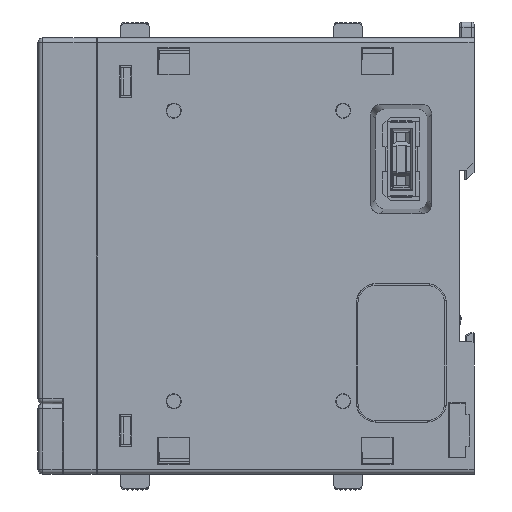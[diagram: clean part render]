
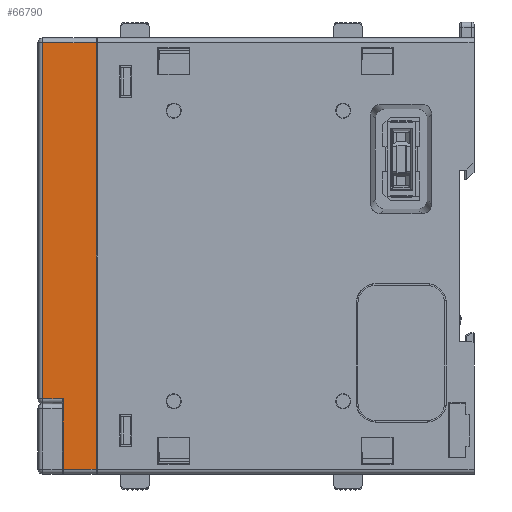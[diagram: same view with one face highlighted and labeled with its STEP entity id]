
A CAD part, left-side view. The second image highlights one B-rep face of the part: STEP entity #66790.
In plain terms, the highlighted planar face has unit normal (-1, 0, 0).
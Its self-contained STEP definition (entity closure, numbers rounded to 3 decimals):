
#2193=DIRECTION('',(0.,-1.,0.));
#2194=VECTOR('',#2193,4.2);
#2195=CARTESIAN_POINT('',(-13.3,89.,-29.5));
#2196=LINE('',#2195,#2194);
#2375=DIRECTION('',(0.,0.,1.));
#2376=VECTOR('',#2375,14.5);
#2377=CARTESIAN_POINT('',(-13.3,84.8,-44.));
#2378=LINE('',#2377,#2376);
#2382=DIRECTION('',(0.,0.,1.));
#2383=VECTOR('',#2382,73.5);
#2384=CARTESIAN_POINT('',(-13.3,89.,-29.5));
#2385=LINE('',#2384,#2383);
#2389=DIRECTION('',(0.,-1.,0.));
#2390=VECTOR('',#2389,11.);
#2391=CARTESIAN_POINT('',(-13.3,89.,44.));
#2392=LINE('',#2391,#2390);
#2396=DIRECTION('',(0.,-1.,0.));
#2397=VECTOR('',#2396,6.8);
#2398=CARTESIAN_POINT('',(-13.3,84.8,-44.));
#2399=LINE('',#2398,#2397);
#2411=DIRECTION('',(0.,0.,1.));
#2412=VECTOR('',#2411,88.);
#2413=CARTESIAN_POINT('',(-13.3,78.,-44.));
#2414=LINE('',#2413,#2412);
#59220=CARTESIAN_POINT('',(-13.3,78.,-44.));
#59222=VERTEX_POINT('',#59220);
#59229=CARTESIAN_POINT('',(-13.3,78.,44.));
#59231=VERTEX_POINT('',#59229);
#59236=CARTESIAN_POINT('',(-13.3,89.,44.));
#59238=VERTEX_POINT('',#59236);
#59312=CARTESIAN_POINT('',(-13.3,89.,-29.5));
#59314=VERTEX_POINT('',#59312);
#59428=CARTESIAN_POINT('',(-13.3,84.8,-44.));
#59429=CARTESIAN_POINT('',(-13.3,84.8,-29.5));
#59430=VERTEX_POINT('',#59428);
#59431=VERTEX_POINT('',#59429);
#66775=CARTESIAN_POINT('',(-13.3,78.,-45.));
#66776=DIRECTION('',(-1.,0.,0.));
#66777=DIRECTION('',(0.,0.,1.));
#66778=AXIS2_PLACEMENT_3D('',#66775,#66776,#66777);
#66779=PLANE('',#66778);
#66780=ORIENTED_EDGE('',*,*,#66768,.T.);
#66781=ORIENTED_EDGE('',*,*,#66578,.F.);
#66782=ORIENTED_EDGE('',*,*,#66607,.T.);
#66783=ORIENTED_EDGE('',*,*,#66635,.T.);
#66785=ORIENTED_EDGE('',*,*,#66784,.F.);
#66787=ORIENTED_EDGE('',*,*,#66786,.F.);
#66788=EDGE_LOOP('',(#66780,#66781,#66782,#66783,#66785,#66787));
#66789=FACE_OUTER_BOUND('',#66788,.F.);
#66790=ADVANCED_FACE('',(#66789),#66779,.T.);
#66578=EDGE_CURVE('',#59314,#59431,#2196,.T.);
#66607=EDGE_CURVE('',#59314,#59238,#2385,.T.);
#66635=EDGE_CURVE('',#59238,#59231,#2392,.T.);
#66768=EDGE_CURVE('',#59430,#59431,#2378,.T.);
#66784=EDGE_CURVE('',#59222,#59231,#2414,.T.);
#66786=EDGE_CURVE('',#59430,#59222,#2399,.T.);
